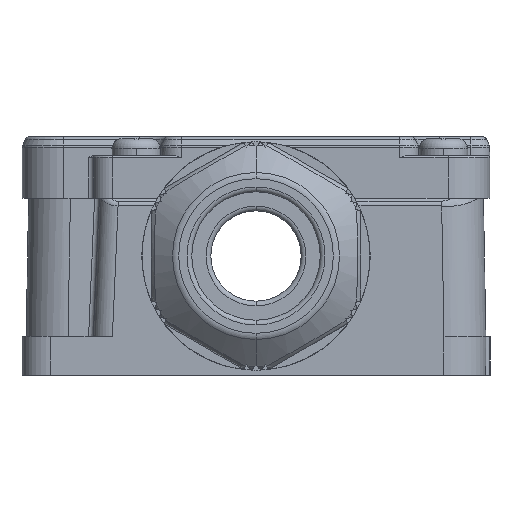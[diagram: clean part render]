
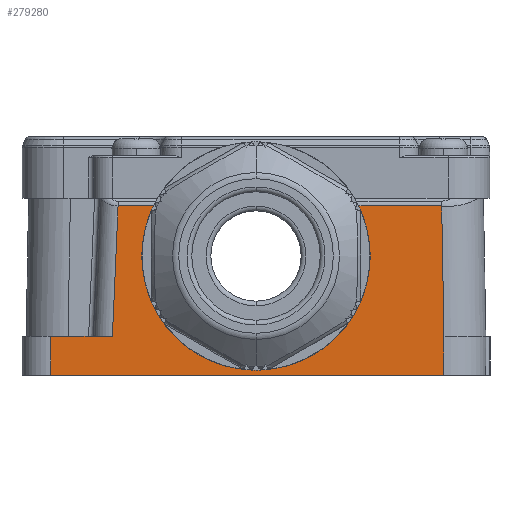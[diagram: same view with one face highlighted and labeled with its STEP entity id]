
A CAD part, left-side view. The second image highlights one B-rep face of the part: STEP entity #279280.
In plain terms, the highlighted planar face has unit normal (-1, 0, 0).
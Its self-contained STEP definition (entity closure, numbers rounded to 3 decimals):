
#192440=CARTESIAN_POINT('',(12.43,66.33,
-0.1));
#192450=VERTEX_POINT('',#192440);
#192480=CARTESIAN_POINT('',(12.43,24.969,
-0.1));
#192490=DIRECTION('',(0.,1.,0.));
#192500=VECTOR('',#192490,1.);
#192510=LINE('',#192480,#192500);
#192520=CARTESIAN_POINT('',(12.43,24.969,
-0.1));
#192530=VERTEX_POINT('',#192520);
#192540=EDGE_CURVE('',#192530,#192450,#192510,.T.);
#277640=CARTESIAN_POINT('',(12.43,59.829,
4.));
#277650=VERTEX_POINT('',#277640);
#277680=CARTESIAN_POINT('',(12.43,66.33,
4.));
#277690=DIRECTION('',(0.,-1.,0.));
#277700=VECTOR('',#277690,1.);
#277710=LINE('',#277680,#277700);
#277720=CARTESIAN_POINT('',(12.43,66.33,
4.));
#277730=VERTEX_POINT('',#277720);
#277740=EDGE_CURVE('',#277730,#277650,#277710,.T.);
#278410=CARTESIAN_POINT('',(12.43,59.23,
17.71));
#278420=DIRECTION('',(0.,0.044,-0.999));
#278430=VECTOR('',#278420,1.);
#278440=LINE('',#278410,#278430);
#278450=CARTESIAN_POINT('',(12.43,59.23,
17.71));
#278460=VERTEX_POINT('',#278450);
#278470=EDGE_CURVE('',#278460,#277650,#278440,.T.);
#278730=CARTESIAN_POINT('',(12.43,59.53,
0.));
#278740=DIRECTION('',(-1.,0.,0.));
#278750=DIRECTION('',(0.,-1.,0.));
#278760=AXIS2_PLACEMENT_3D('',#278730,#278740,#278750);
#278770=PLANE('',#278760);
#278780=ORIENTED_EDGE('',*,*,#192540,.F.);
#278790=CARTESIAN_POINT('',(12.43,66.33,
-0.1));
#278800=DIRECTION('',(0.,0.,1.));
#278810=VECTOR('',#278800,1.);
#278820=LINE('',#278790,#278810);
#278830=EDGE_CURVE('',#192450,#277730,#278820,.T.);
#278840=ORIENTED_EDGE('',*,*,#278830,.F.);
#278850=ORIENTED_EDGE('',*,*,#277740,.F.);
#278860=ORIENTED_EDGE('',*,*,#278470,.T.);
#278870=CARTESIAN_POINT('',(12.43,59.23,
17.71));
#278880=DIRECTION('',(0.,-1.,0.));
#278890=VECTOR('',#278880,1.);
#278900=LINE('',#278870,#278890);
#278910=CARTESIAN_POINT('',(12.43,54.391,
17.71));
#278920=VERTEX_POINT('',#278910);
#278930=EDGE_CURVE('',#278460,#278920,#278900,.T.);
#278940=ORIENTED_EDGE('',*,*,#278930,.F.);
#278950=CARTESIAN_POINT('',(12.43,44.73,12.45));
#278960=DIRECTION('',(-1.,0.,0.));
#278970=DIRECTION('',(0.,0.878,
0.478));
#278980=AXIS2_PLACEMENT_3D('',#278950,#278960,#278970);
#278990=CIRCLE('',#278980,11.);
#279000=CARTESIAN_POINT('',(12.43,35.07,
17.71));
#279010=VERTEX_POINT('',#279000);
#279020=EDGE_CURVE('',#278920,#279010,#278990,.T.);
#279030=ORIENTED_EDGE('',*,*,#279020,.F.);
#279040=CARTESIAN_POINT('',(12.43,35.07,
17.71));
#279050=DIRECTION('',(0.,-1.,0.));
#279060=VECTOR('',#279050,1.);
#279070=LINE('',#279040,#279060);
#279080=CARTESIAN_POINT('',(12.43,25.209,
17.71));
#279090=VERTEX_POINT('',#279080);
#279100=EDGE_CURVE('',#279010,#279090,#279070,.T.);
#279110=ORIENTED_EDGE('',*,*,#279100,.F.);
#279120=CARTESIAN_POINT('',(12.43,24.969,
3.962));
#279130=DIRECTION('',(0.,0.017,1.));
#279140=VECTOR('',#279130,1.);
#279150=LINE('',#279120,#279140);
#279160=CARTESIAN_POINT('',(12.43,24.969,
3.962));
#279170=VERTEX_POINT('',#279160);
#279180=EDGE_CURVE('',#279170,#279090,#279150,.T.);
#279190=ORIENTED_EDGE('',*,*,#279180,.T.);
#279200=CARTESIAN_POINT('',(12.43,24.969,
3.962));
#279210=DIRECTION('',(0.,0.,-1.));
#279220=VECTOR('',#279210,1.);
#279230=LINE('',#279200,#279220);
#279240=EDGE_CURVE('',#279170,#192530,#279230,.T.);
#279250=ORIENTED_EDGE('',*,*,#279240,.F.);
#279260=EDGE_LOOP('',(#279250,#279190,#279110,#279030,#278940,#278860,
#278850,#278840,#278780));
#279270=FACE_OUTER_BOUND('',#279260,.T.);
#279280=ADVANCED_FACE('',(#279270),#278770,.T.);
